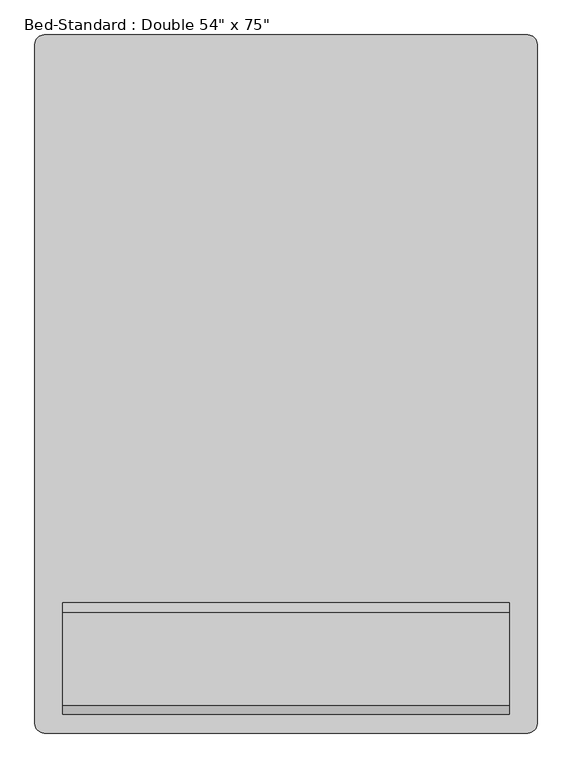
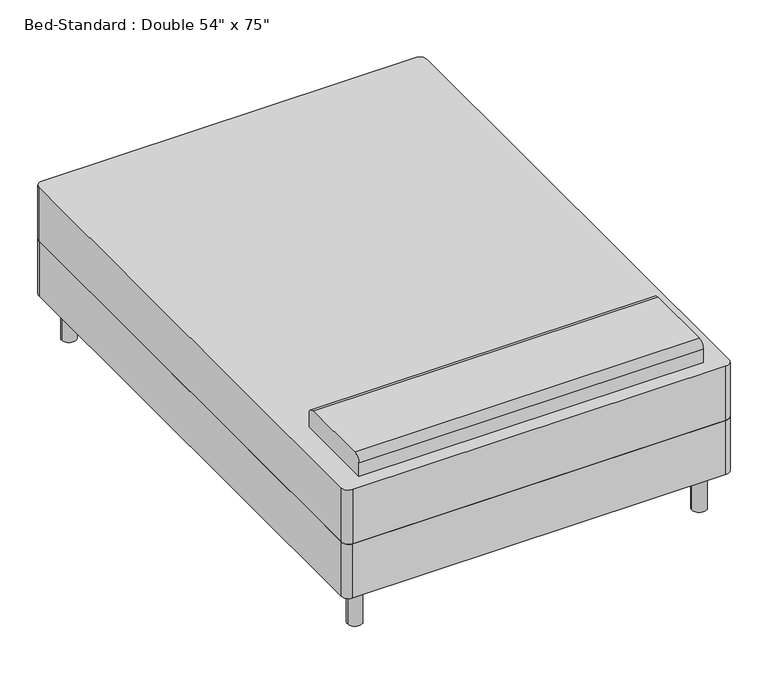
"""IFC4 building model written with IfcOpenShell, lengths in millimetres: furniture geometry."""

from ifc_helpers import new_model, si_unit, point, frame, frame_2d, origin, origin_with_axes, place, context, project, spatial, polyline, circle_curve, trimmed, segment, composite_curve, outline, extrude, source, transform, mapped, element, save


def furniture_5d01f4a4(model_context):
    return source(origin(), model_context, "Body", "SweptSolid", [
        extrude(outline(composite_curve([segment(trimmed(circle_curve(frame_2d((-388.9114754, 972.695082)), 25.4), [point((-414.3114754, 972.695082))], [point((-388.9114754, 998.095082))], False, "CARTESIAN"), True, "CONTINUOUS"), segment(polyline([(-388.9114754, 998.095082), (931.8885246, 998.095082)]), True, "CONTINUOUS"), segment(trimmed(circle_curve(frame_2d((931.8885246, 972.695082)), 25.4), [point((931.8885246, 998.095082))], [point((957.2885246, 972.695082))], False, "CARTESIAN"), True, "CONTINUOUS"), segment(polyline([(957.2885246, 972.695082), (957.2885246, -881.504918)]), True, "CONTINUOUS"), segment(trimmed(circle_curve(frame_2d((931.8885246, -881.504918)), 25.4), [point((957.2885246, -881.504918))], [point((931.8885246, -906.904918))], False, "CARTESIAN"), True, "CONTINUOUS"), segment(polyline([(931.8885246, -906.904918), (-388.9114754, -906.904918)]), True, "CONTINUOUS"), segment(trimmed(circle_curve(frame_2d((-388.9114754, -881.504918)), 25.4), [point((-388.9114754, -906.904918))], [point((-414.3114754, -881.504918))], False, "CARTESIAN"), True, "CONTINUOUS"), segment(polyline([(-414.3114754, -881.504918), (-414.3114754, 972.695082)]), True, "CONTINUOUS")], self_intersect=False)), frame((0.0, 0.0, 152.4), z_axis=(0.0, 0.0, 1.0), x_axis=(1.0, 0.0, 0.0)), (0.0, 0.0, 1.0), 203.2),
        extrude(outline(composite_curve([segment(polyline([(-551.304918, 558.8), (-856.104918, 558.8), (-856.104918, 609.6)]), True, "CONTINUOUS"), segment(trimmed(circle_curve(frame_2d((-830.704918, 609.6)), 25.4), [point((-856.104918, 609.6))], [point((-830.704918, 635.0))], False, "CARTESIAN"), True, "CONTINUOUS"), segment(polyline([(-830.704918, 635.0), (-576.704918, 635.0)]), True, "CONTINUOUS"), segment(trimmed(circle_curve(frame_2d((-576.704918, 609.6)), 25.4), [point((-576.704918, 635.0))], [point((-551.304918, 609.6))], False, "CARTESIAN"), True, "CONTINUOUS"), segment(polyline([(-551.304918, 609.6), (-551.304918, 558.8)]), True, "CONTINUOUS")], self_intersect=False)), frame((-338.1114754, 0.0, 0.0), z_axis=(1.0, 0.0, 0.0), x_axis=(0.0, 1.0, 0.0)), (0.0, 0.0, 1.0), 1219.2),
        extrude(outline(composite_curve([segment(trimmed(circle_curve(frame_2d((-338.1114754, -830.704918)), 25.4), [point((-363.5114754, -830.704918))], [point((-312.7114754, -830.704918))], False, "CARTESIAN"), True, "CONTINUOUS"), segment(trimmed(circle_curve(frame_2d((-338.1114754, -830.704918)), 25.4), [point((-312.7114754, -830.704918))], [point((-363.5114754, -830.704918))], False, "CARTESIAN"), True, "CONTINUOUS")], self_intersect=False)), origin_with_axes(), (0.0, 0.0, 1.0), 152.4),
        extrude(outline(composite_curve([segment(trimmed(circle_curve(frame_2d((881.0885246, -830.704918)), 25.4), [point((855.6885246, -830.704918))], [point((906.4885246, -830.704918))], False, "CARTESIAN"), True, "CONTINUOUS"), segment(trimmed(circle_curve(frame_2d((881.0885246, -830.704918)), 25.4), [point((906.4885246, -830.704918))], [point((855.6885246, -830.704918))], False, "CARTESIAN"), True, "CONTINUOUS")], self_intersect=False)), origin_with_axes(), (0.0, 0.0, 1.0), 152.4),
        extrude(outline(composite_curve([segment(trimmed(circle_curve(frame_2d((881.0885246, 921.895082)), 25.4), [point((855.6885246, 921.895082))], [point((906.4885246, 921.895082))], False, "CARTESIAN"), True, "CONTINUOUS"), segment(trimmed(circle_curve(frame_2d((881.0885246, 921.895082)), 25.4), [point((906.4885246, 921.895082))], [point((855.6885246, 921.895082))], False, "CARTESIAN"), True, "CONTINUOUS")], self_intersect=False)), origin_with_axes(), (0.0, 0.0, 1.0), 152.4),
        extrude(outline(composite_curve([segment(trimmed(circle_curve(frame_2d((-338.1114754, 921.895082)), 25.4), [point((-363.5114754, 921.895082))], [point((-312.7114754, 921.895082))], False, "CARTESIAN"), True, "CONTINUOUS"), segment(trimmed(circle_curve(frame_2d((-338.1114754, 921.895082)), 25.4), [point((-312.7114754, 921.895082))], [point((-363.5114754, 921.895082))], False, "CARTESIAN"), True, "CONTINUOUS")], self_intersect=False)), origin_with_axes(), (0.0, 0.0, 1.0), 152.4),
        extrude(outline(composite_curve([segment(trimmed(circle_curve(frame_2d((-388.9114754, -881.504918)), 25.4), [point((-388.9114754, -906.904918))], [point((-414.3114754, -881.504918))], False, "CARTESIAN"), True, "CONTINUOUS"), segment(polyline([(-414.3114754, -881.504918), (-414.3114754, 972.695082)]), True, "CONTINUOUS"), segment(trimmed(circle_curve(frame_2d((-388.9114754, 972.695082)), 25.4), [point((-414.3114754, 972.695082))], [point((-388.9114754, 998.095082))], False, "CARTESIAN"), True, "CONTINUOUS"), segment(polyline([(-388.9114754, 998.095082), (931.8885246, 998.095082)]), True, "CONTINUOUS"), segment(trimmed(circle_curve(frame_2d((931.8885246, 972.695082)), 25.4), [point((931.8885246, 998.095082))], [point((957.2885246, 972.695082))], False, "CARTESIAN"), True, "CONTINUOUS"), segment(polyline([(957.2885246, 972.695082), (957.2885246, -881.504918)]), True, "CONTINUOUS"), segment(trimmed(circle_curve(frame_2d((931.8885246, -881.504918)), 25.4), [point((957.2885246, -881.504918))], [point((931.8885246, -906.904918))], False, "CARTESIAN"), True, "CONTINUOUS"), segment(polyline([(931.8885246, -906.904918), (-388.9114754, -906.904918)]), True, "CONTINUOUS")], self_intersect=False)), frame((0.0, 0.0, 355.6), z_axis=(0.0, 0.0, 1.0), x_axis=(1.0, 0.0, 0.0)), (0.0, 0.0, 1.0), 203.2),
    ])


if __name__ == "__main__":
    model = new_model("IFC4")
    model_context = context("Model", 3, world=origin())
    ifc_project = project(units=[si_unit("LENGTHUNIT", "METRE", prefix="MILLI")], contexts=[model_context])
    site = spatial("IfcSite", under=ifc_project)
    building = spatial("IfcBuilding", under=site)
    placement = place(None, origin())
    furniture_shape = furniture_5d01f4a4(model_context)
    element("IfcFurniture", 1, ObjectType="Bed-Standard : Double 54\" x 75\"", at=placement, inside=building, context=model_context, shape_type="MappedRepresentation", body=[
        mapped(furniture_shape, transform((0.0, 0.0, 0.0), x_axis=(1.0, 0.0, 0.0), y_axis=(0.0, 1.0, 0.0), z_axis=(0.0, 0.0, 1.0))),
    ])
    save(model, "model.ifc")
